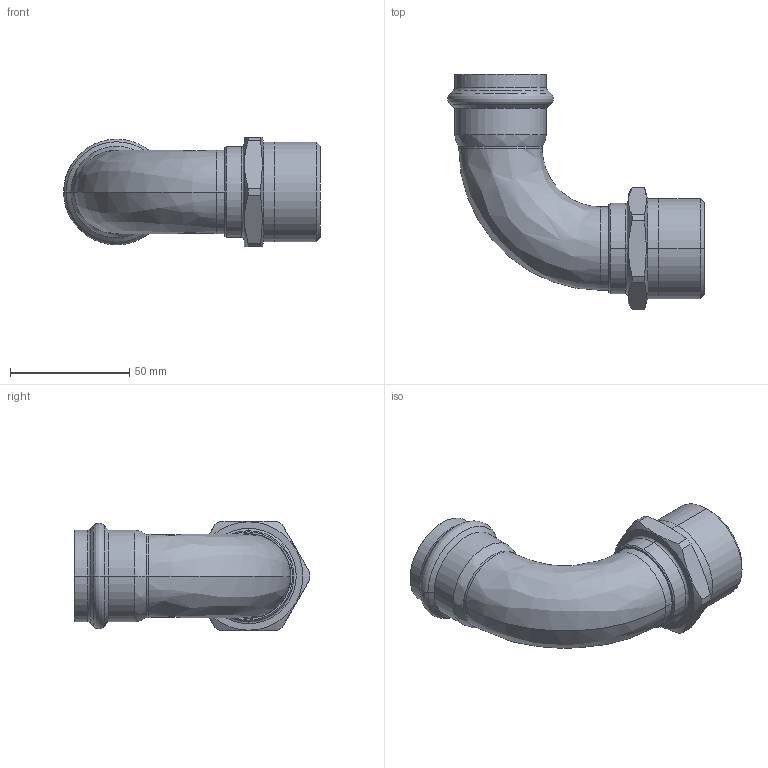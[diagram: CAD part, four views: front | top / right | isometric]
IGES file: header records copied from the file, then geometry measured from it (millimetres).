
Start section: Elysium IGES Interface
Global section: file name: C:\3d modellen sudo\C-Pr VP\SP8092GV\8092GVW35114.igs; native system: CoCreate Modeling 17.00A  17-Jun-2010; preprocessor: CoCreate IGES_3D V2.2; author: Unknown; organization: Unknown; date: 20130305.113015; units: millimetre
Bounding box: 107.65 x 98.95 x 46 mm (x, y, z)
Volume: 41090.4 mm3; surface area: 33896.5 mm2
Topology: 1 solids, 1 shells, 87 faces, 194 edges, 112 vertices
Faces by surface type: bspline 87
